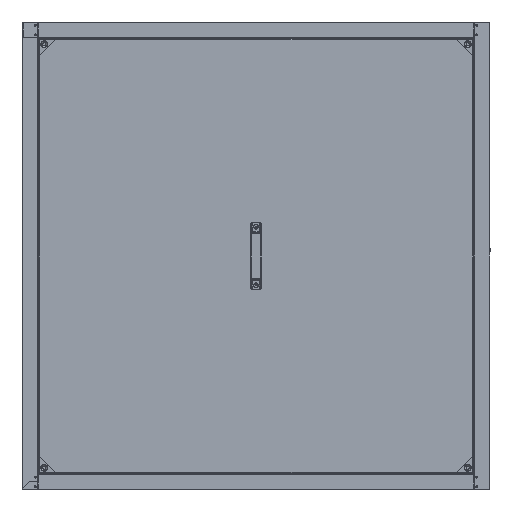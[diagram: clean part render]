
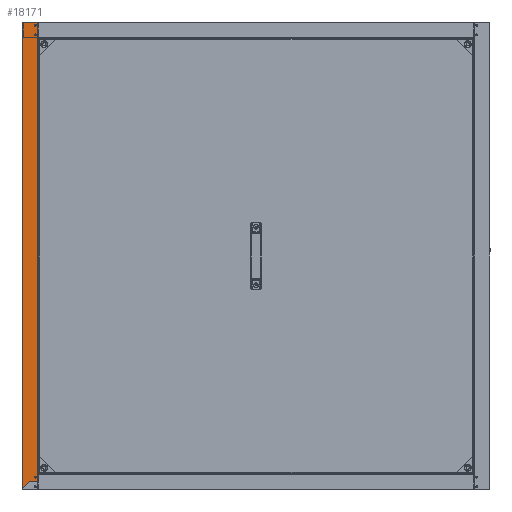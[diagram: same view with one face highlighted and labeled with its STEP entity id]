
A CAD part, left-side view. The second image highlights one B-rep face of the part: STEP entity #18171.
In plain terms, the highlighted planar face has unit normal (-1, 0, 0).
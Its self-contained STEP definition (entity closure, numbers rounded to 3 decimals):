
#53 = CARTESIAN_POINT ( 'NONE',  ( -600., 598., -597.35 ) ) ;
#168 = AXIS2_PLACEMENT_3D ( 'NONE', #1260, #27945, #5081 ) ;
#193 = CIRCLE ( 'NONE', #20891, 2.1 ) ;
#427 = CARTESIAN_POINT ( 'NONE',  ( -600., 563.9, 567.2 ) ) ;
#618 = DIRECTION ( 'NONE',  ( 0., -1., 0. ) ) ;
#1205 = LINE ( 'NONE', #3764, #20243 ) ;
#1260 = CARTESIAN_POINT ( 'NONE',  ( -600., 566., -567.2 ) ) ;
#1794 = DIRECTION ( 'NONE',  ( -1., 0., 0. ) ) ;
#1916 = EDGE_CURVE ( 'NONE', #7777, #27810, #1205, .T. ) ;
#2275 = VECTOR ( 'NONE', #39593, 1000. ) ;
#2465 = DIRECTION ( 'NONE',  ( 0., 0., -1. ) ) ;
#2746 = DIRECTION ( 'NONE',  ( -1., 0., 0. ) ) ;
#3763 = DIRECTION ( 'NONE',  ( 0., -1., 0. ) ) ;
#3764 = CARTESIAN_POINT ( 'NONE',  ( -600., 560.7, 561.65 ) ) ;
#5081 = DIRECTION ( 'NONE',  ( 0., -1., 0. ) ) ;
#5121 = CARTESIAN_POINT ( 'NONE',  ( -600., 560.7, 598.95 ) ) ;
#5260 = VECTOR ( 'NONE', #2465, 1000. ) ;
#6710 = AXIS2_PLACEMENT_3D ( 'NONE', #8483, #35137, #12300 ) ;
#6856 = CARTESIAN_POINT ( 'NONE',  ( -600., 568.1, 591.7 ) ) ;
#6873 = EDGE_CURVE ( 'NONE', #28600, #29440, #21504, .T. ) ;
#7114 = EDGE_LOOP ( 'NONE', ( #44026, #30893 ) ) ;
#7166 = ORIENTED_EDGE ( 'NONE', *, *, #22440, .F. ) ;
#7186 = EDGE_LOOP ( 'NONE', ( #23410, #38363, #20113, #42492, #48859, #43146, #38194, #20181, #22101 ) ) ;
#7439 = CIRCLE ( 'NONE', #6710, 2.1 ) ;
#7736 = EDGE_CURVE ( 'NONE', #34594, #47210, #44160, .T. ) ;
#7777 = VERTEX_POINT ( 'NONE', #15280 ) ;
#8398 = FACE_BOUND ( 'NONE', #48812, .T. ) ;
#8483 = CARTESIAN_POINT ( 'NONE',  ( -600., 566., 591.7 ) ) ;
#8804 = VERTEX_POINT ( 'NONE', #26706 ) ;
#10161 = PLANE ( 'NONE',  #10610 ) ;
#10186 = CIRCLE ( 'NONE', #168, 2.1 ) ;
#10536 = CARTESIAN_POINT ( 'NONE',  ( -600., 560.2, 561.65 ) ) ;
#10610 = AXIS2_PLACEMENT_3D ( 'NONE', #32984, #17767, #44511 ) ;
#10897 = EDGE_CURVE ( 'NONE', #37012, #18958, #41820, .T. ) ;
#11229 = CARTESIAN_POINT ( 'NONE',  ( -600., 560.2, 561.65 ) ) ;
#11490 = EDGE_CURVE ( 'NONE', #32427, #36148, #10186, .T. ) ;
#11754 = DIRECTION ( 'NONE',  ( 0., 0.707, -0.707 ) ) ;
#11916 = VERTEX_POINT ( 'NONE', #53 ) ;
#11925 = AXIS2_PLACEMENT_3D ( 'NONE', #24612, #1794, #28487 ) ;
#12300 = DIRECTION ( 'NONE',  ( 0., -1., 0. ) ) ;
#12389 = VERTEX_POINT ( 'NONE', #19127 ) ;
#12607 = VECTOR ( 'NONE', #44403, 1000. ) ;
#12736 = DIRECTION ( 'NONE',  ( -1., 0., 0. ) ) ;
#13143 = DIRECTION ( 'NONE',  ( 0., 1., 0. ) ) ;
#14616 = LINE ( 'NONE', #32203, #43881 ) ;
#15280 = CARTESIAN_POINT ( 'NONE',  ( -600., 560.7, 561.65 ) ) ;
#15351 = LINE ( 'NONE', #29094, #5260 ) ;
#15464 = LINE ( 'NONE', #19099, #25620 ) ;
#15704 = EDGE_CURVE ( 'NONE', #43978, #11916, #39046, .T. ) ;
#16064 = CARTESIAN_POINT ( 'NONE',  ( -600., 563.9, 591.7 ) ) ;
#17329 = DIRECTION ( 'NONE',  ( 0., -1., 0. ) ) ;
#17767 = DIRECTION ( 'NONE',  ( 1., 0., 0. ) ) ;
#18171 = ADVANCED_FACE ( 'NONE', ( #18490, #8398, #47856, #37617 ), #10161, .F. ) ;
#18490 = FACE_BOUND ( 'NONE', #7114, .T. ) ;
#18844 = DIRECTION ( 'NONE',  ( 0., 0., 1. ) ) ;
#18958 = VERTEX_POINT ( 'NONE', #6856 ) ;
#19099 = CARTESIAN_POINT ( 'NONE',  ( -600., 560.7, -560.05 ) ) ;
#19127 = CARTESIAN_POINT ( 'NONE',  ( -600., 560.7, -560.05 ) ) ;
#19331 = CARTESIAN_POINT ( 'NONE',  ( -600., 568.1, -567.2 ) ) ;
#19946 = CIRCLE ( 'NONE', #11925, 2.1 ) ;
#20113 = ORIENTED_EDGE ( 'NONE', *, *, #15704, .F. ) ;
#20181 = ORIENTED_EDGE ( 'NONE', *, *, #1916, .T. ) ;
#20243 = VECTOR ( 'NONE', #618, 1000. ) ;
#20891 = AXIS2_PLACEMENT_3D ( 'NONE', #25538, #2746, #29403 ) ;
#21504 = LINE ( 'NONE', #33683, #12607 ) ;
#22101 = ORIENTED_EDGE ( 'NONE', *, *, #33944, .T. ) ;
#22187 = EDGE_CURVE ( 'NONE', #43978, #28600, #14616, .T. ) ;
#22440 = EDGE_CURVE ( 'NONE', #18958, #37012, #7439, .T. ) ;
#23071 = CARTESIAN_POINT ( 'NONE',  ( -600., 599.1, -598.45 ) ) ;
#23410 = ORIENTED_EDGE ( 'NONE', *, *, #7736, .T. ) ;
#23816 = VECTOR ( 'NONE', #13143, 1000. ) ;
#24612 = CARTESIAN_POINT ( 'NONE',  ( -600., 566., 567.2 ) ) ;
#25129 = VERTEX_POINT ( 'NONE', #427 ) ;
#25535 = EDGE_CURVE ( 'NONE', #7777, #12389, #32665, .T. ) ;
#25538 = CARTESIAN_POINT ( 'NONE',  ( -600., 566., -567.2 ) ) ;
#25620 = VECTOR ( 'NONE', #45859, 1000. ) ;
#26401 = CARTESIAN_POINT ( 'NONE',  ( -600., 579.75, -579.1 ) ) ;
#26562 = DIRECTION ( 'NONE',  ( -1., 0., 0. ) ) ;
#26706 = CARTESIAN_POINT ( 'NONE',  ( -600., 568.1, 567.2 ) ) ;
#26967 = EDGE_CURVE ( 'NONE', #25129, #8804, #19946, .T. ) ;
#27810 = VERTEX_POINT ( 'NONE', #10536 ) ;
#27945 = DIRECTION ( 'NONE',  ( -1., 0., 0. ) ) ;
#28274 = EDGE_CURVE ( 'NONE', #36148, #32427, #193, .T. ) ;
#28487 = DIRECTION ( 'NONE',  ( 0., -1., 0. ) ) ;
#28600 = VERTEX_POINT ( 'NONE', #35673 ) ;
#28957 = VECTOR ( 'NONE', #11754, 1000. ) ;
#29051 = ORIENTED_EDGE ( 'NONE', *, *, #41081, .F. ) ;
#29094 = CARTESIAN_POINT ( 'NONE',  ( -600., 598., 598.95 ) ) ;
#29204 = VECTOR ( 'NONE', #18844, 1000. ) ;
#29403 = DIRECTION ( 'NONE',  ( 0., -1., 0. ) ) ;
#29440 = VERTEX_POINT ( 'NONE', #37900 ) ;
#30893 = ORIENTED_EDGE ( 'NONE', *, *, #28274, .F. ) ;
#32203 = CARTESIAN_POINT ( 'NONE',  ( -600., 560.2, -579.1 ) ) ;
#32250 = AXIS2_PLACEMENT_3D ( 'NONE', #35548, #12736, #39390 ) ;
#32427 = VERTEX_POINT ( 'NONE', #33810 ) ;
#32665 = LINE ( 'NONE', #5121, #2275 ) ;
#32984 = CARTESIAN_POINT ( 'NONE',  ( -600., 600., 598.95 ) ) ;
#33683 = CARTESIAN_POINT ( 'NONE',  ( -600., 560.2, -560.05 ) ) ;
#33810 = CARTESIAN_POINT ( 'NONE',  ( -600., 563.9, -567.2 ) ) ;
#33944 = EDGE_CURVE ( 'NONE', #27810, #34594, #39306, .T. ) ;
#34594 = VERTEX_POINT ( 'NONE', #47079 ) ;
#35023 = CIRCLE ( 'NONE', #32250, 2.1 ) ;
#35137 = DIRECTION ( 'NONE',  ( -1., 0., 0. ) ) ;
#35548 = CARTESIAN_POINT ( 'NONE',  ( -600., 566., 567.2 ) ) ;
#35673 = CARTESIAN_POINT ( 'NONE',  ( -600., 560.2, -579.1 ) ) ;
#36148 = VERTEX_POINT ( 'NONE', #19331 ) ;
#37012 = VERTEX_POINT ( 'NONE', #16064 ) ;
#37617 = FACE_OUTER_BOUND ( 'NONE', #7186, .T. ) ;
#37900 = CARTESIAN_POINT ( 'NONE',  ( -600., 560.2, -560.05 ) ) ;
#38194 = ORIENTED_EDGE ( 'NONE', *, *, #25535, .F. ) ;
#38299 = CARTESIAN_POINT ( 'NONE',  ( -600., 560.2, 598. ) ) ;
#38363 = ORIENTED_EDGE ( 'NONE', *, *, #40810, .T. ) ;
#38570 = CARTESIAN_POINT ( 'NONE',  ( -600., 598., 598. ) ) ;
#39046 = LINE ( 'NONE', #23071, #28957 ) ;
#39306 = LINE ( 'NONE', #11229, #29204 ) ;
#39390 = DIRECTION ( 'NONE',  ( 0., -1., 0. ) ) ;
#39593 = DIRECTION ( 'NONE',  ( 0., 0., -1. ) ) ;
#40810 = EDGE_CURVE ( 'NONE', #47210, #11916, #15351, .T. ) ;
#41081 = EDGE_CURVE ( 'NONE', #8804, #25129, #35023, .T. ) ;
#41309 = AXIS2_PLACEMENT_3D ( 'NONE', #49505, #26562, #3763 ) ;
#41820 = CIRCLE ( 'NONE', #41309, 2.1 ) ;
#42218 = EDGE_LOOP ( 'NONE', ( #43477, #7166 ) ) ;
#42492 = ORIENTED_EDGE ( 'NONE', *, *, #22187, .T. ) ;
#43146 = ORIENTED_EDGE ( 'NONE', *, *, #49250, .T. ) ;
#43477 = ORIENTED_EDGE ( 'NONE', *, *, #10897, .F. ) ;
#43881 = VECTOR ( 'NONE', #17329, 1000. ) ;
#43978 = VERTEX_POINT ( 'NONE', #26401 ) ;
#44026 = ORIENTED_EDGE ( 'NONE', *, *, #11490, .F. ) ;
#44160 = LINE ( 'NONE', #38299, #23816 ) ;
#44403 = DIRECTION ( 'NONE',  ( 0., 0., 1. ) ) ;
#44511 = DIRECTION ( 'NONE',  ( 0., 1., 0. ) ) ;
#44705 = ORIENTED_EDGE ( 'NONE', *, *, #26967, .F. ) ;
#45859 = DIRECTION ( 'NONE',  ( 0., 1., 0. ) ) ;
#47079 = CARTESIAN_POINT ( 'NONE',  ( -600., 560.2, 598. ) ) ;
#47210 = VERTEX_POINT ( 'NONE', #38570 ) ;
#47856 = FACE_BOUND ( 'NONE', #42218, .T. ) ;
#48812 = EDGE_LOOP ( 'NONE', ( #44705, #29051 ) ) ;
#48859 = ORIENTED_EDGE ( 'NONE', *, *, #6873, .T. ) ;
#49250 = EDGE_CURVE ( 'NONE', #29440, #12389, #15464, .T. ) ;
#49505 = CARTESIAN_POINT ( 'NONE',  ( -600., 566., 591.7 ) ) ;
